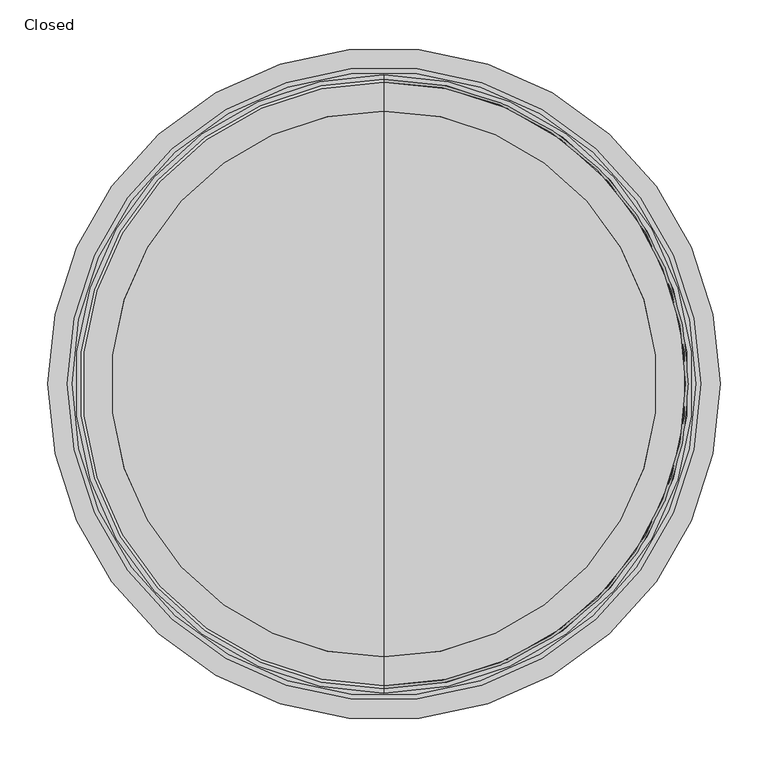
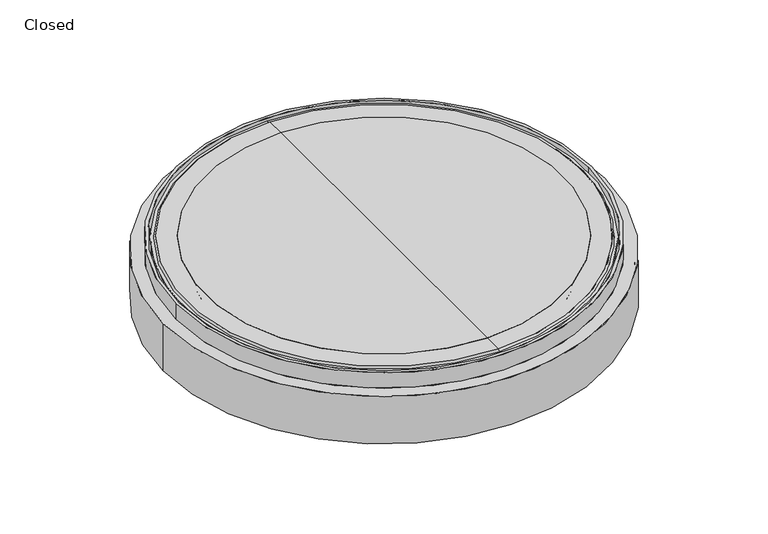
"""IFC4 building model written with IfcOpenShell, lengths in millimetres: proxy geometry, REHAU Chamber Cover : Closed."""

from ifc_helpers import new_model, si_unit, point, frame, origin, origin_with_axes, place, context, project, spatial, polyline, circle_curve, ellipse_curve, trimmed, source, transform, mapped, element, save
from ifc_brep_helpers import plane_surface, cylinder_surface, revolved_surface, advanced_brep


def closed_e65c10ef(model_context):
    return source(origin(), model_context, "Body", "AdvancedBrep", [
        advanced_brep(
        [(0.0, 0.0, 106.0), (0.0, 286.141188, 106.0), (0.0, -286.141188, 106.0), (0.0, -122.6535082, 48.0), (0.0, 122.6535082, 48.0), (0.0, 0.0, 48.0), (0.0, -230.5126615, 55.5422467), (0.0, 230.5126615, 55.5422467), (0.0, -259.2480253, 59.5807387), (0.0, 259.2480253, 59.5807387), (0.0, -275.4856936, 73.2057602), (0.0, 275.4856936, 73.2057602)],
        [
            (0, 1),
            (1, 2, circle_curve(frame((0.0, 0.0, 106.0), z_axis=(0.0, 0.0, 1.0), x_axis=(0.0, 1.0, 0.0)), 286.141188)),
            (2, 0),
            (2, 1, circle_curve(frame((0.0, 0.0, 106.0), z_axis=(0.0, 0.0, 1.0), x_axis=(0.0, 1.0, 0.0)), 286.141188)),
            (3, 4, circle_curve(frame((0.0, 0.0, 48.0), z_axis=(0.0, 0.0, -1.0), x_axis=(0.0, 1.0, 0.0)), 122.6535082)),
            (4, 5),
            (5, 3),
            (4, 3, circle_curve(frame((0.0, 0.0, 48.0), z_axis=(0.0, 0.0, -1.0), x_axis=(0.0, 1.0, 0.0)), 122.6535082)),
            (6, 7, circle_curve(frame((0.0, 0.0, 55.5422467), z_axis=(0.0, 0.0, -1.0), x_axis=(0.0, 1.0, 0.0)), 230.5126615)),
            (7, 4, circle_curve(frame((0.0, 122.6535082, 823.0), z_axis=(-1.0, 0.0, 0.0), x_axis=(0.0, 1.0, 0.0)), 775.0)),
            (3, 6, circle_curve(frame((0.0, -122.6535082, 823.0), z_axis=(-1.0, 0.0, 0.0), x_axis=(0.0, -1.0, 0.0)), 775.0)),
            (7, 6, circle_curve(frame((0.0, 0.0, 55.5422467), z_axis=(0.0, 0.0, -1.0), x_axis=(0.0, 1.0, 0.0)), 230.5126615)),
            (8, 9, circle_curve(frame((0.0, 0.0, 59.5807387), z_axis=(0.0, 0.0, -1.0), x_axis=(0.0, 1.0, 0.0)), 259.2480253)),
            (9, 7),
            (6, 8),
            (9, 8, circle_curve(frame((0.0, 0.0, 59.5807387), z_axis=(0.0, 0.0, -1.0), x_axis=(0.0, 1.0, 0.0)), 259.2480253)),
            (10, 11, circle_curve(frame((0.0, 0.0, 73.2057602), z_axis=(0.0, 0.0, -1.0), x_axis=(0.0, 1.0, 0.0)), 275.4856936)),
            (11, 9, circle_curve(frame((0.0, 256.4645633, 79.3861001), z_axis=(-1.0, 0.0, 0.0), x_axis=(0.0, 1.0, 0.0)), 20.0)),
            (8, 10, circle_curve(frame((0.0, -256.4645633, 79.3861001), z_axis=(-1.0, 0.0, 0.0), x_axis=(0.0, -1.0, 0.0)), 20.0)),
            (11, 10, circle_curve(frame((0.0, 0.0, 73.2057602), z_axis=(0.0, 0.0, -1.0), x_axis=(0.0, 1.0, 0.0)), 275.4856936)),
            (1, 11),
            (10, 2),
        ],
        [
            plane_surface(frame((0.0, 0.0, 106.0), z_axis=(0.0, 0.0, 1.0), x_axis=(0.0, 1.0, 0.0))),
            plane_surface(frame((0.0, 0.0, 48.0), z_axis=(0.0, 0.0, -1.0), x_axis=(0.0, 1.0, 0.0))),
            revolved_surface(trimmed(ellipse_curve(frame((0.0, 122.6535082, 823.0), z_axis=(1.0, 0.0, 0.0), x_axis=(0.0, 1.0, 0.0)), 775.0, 775.0), [point((0.0, 122.6535082, 48.0))], [point((0.0, 230.5126615, 55.5422467))], True, "CARTESIAN"), (0.0, 0.0, 48.0), (0.0, 0.0, 1.0)),
            revolved_surface(polyline([(0.0, 230.5126615, 55.5422467), (0.0, 259.2480253, 59.5807387)]), (0.0, 0.0, 48.0), (0.0, 0.0, 1.0)),
            revolved_surface(trimmed(ellipse_curve(frame((0.0, 256.4645633, 79.3861001), z_axis=(1.0, 0.0, 0.0), x_axis=(0.0, 1.0, 0.0)), 20.0, 20.0), [point((0.0, 259.2480253, 59.5807387))], [point((0.0, 275.4856936, 73.2057602))], True, "CARTESIAN"), (0.0, 0.0, 48.0), (0.0, 0.0, 1.0)),
            revolved_surface(polyline([(0.0, 275.4856936, 73.2057602), (0.0, 286.141188, 106.0)]), (0.0, 0.0, 48.0), (0.0, 0.0, 1.0)),
        ],
        [
            (0, [[1, 2, 3]]),
            (0, [[-3, 4, -1]]),
            (1, [[5, 6, 7]]),
            (1, [[8, -7, -6]]),
            (2, [[9, 10, -5, 11]]),
            (2, [[12, -11, -8, -10]]),
            (3, [[13, 14, -9, 15]]),
            (3, [[16, -15, -12, -14]]),
            (4, [[17, 18, -13, 19]]),
            (4, [[20, -19, -16, -18]]),
            (5, [[-2, 21, -17, 22]]),
            (5, [[-4, -22, -20, -21]]),
        ],
    ),
        advanced_brep(
        [(0.0, -122.6535082, 41.0), (0.0, 122.6535082, 41.0), (0.0, 0.0, 41.0), (0.0, -231.4868732, 48.6103702), (0.0, 231.4868732, 48.6103702), (0.0, -264.4935316, 53.2491536), (0.0, 264.4935316, 53.2491536), (0.0, -288.0381506, 73.0054347), (0.0, 288.0381506, 73.0054347), (0.0, -294.5347787, 93.0), (0.0, 294.5347787, 93.0), (0.0, -311.0347787, 93.0), (0.0, 311.0347787, 93.0), (0.0, -311.0347787, 80.0), (0.0, 311.0347787, 80.0), (0.0, -319.5347787, 80.0), (0.0, 319.5347787, 80.0), (0.0, -319.5347787, 93.0), (0.0, 319.5347787, 93.0), (0.0, -324.0, 97.4652213), (0.0, 324.0, 97.4652213), (0.0, -324.0, 103.0), (0.0, 324.0, 103.0), (0.0, -319.5347787, 103.0), (0.0, 319.5347787, 103.0), (0.0, -316.5347787, 106.0), (0.0, 316.5347787, 106.0), (0.0, -286.141188, 106.0), (0.0, 286.141188, 106.0), (0.0, -275.4856936, 73.2057602), (0.0, 275.4856936, 73.2057602), (0.0, -259.2480253, 59.5807387), (0.0, 259.2480253, 59.5807387), (0.0, -230.5126615, 55.5422467), (0.0, 230.5126615, 55.5422467), (0.0, -122.6535082, 48.0), (0.0, 122.6535082, 48.0), (0.0, 0.0, 48.0)],
        [
            (0, 1, circle_curve(frame((0.0, 0.0, 41.0), z_axis=(0.0, 0.0, -1.0), x_axis=(0.0, 1.0, 0.0)), 122.6535082)),
            (1, 2),
            (2, 0),
            (1, 0, circle_curve(frame((0.0, 0.0, 41.0), z_axis=(0.0, 0.0, -1.0), x_axis=(0.0, 1.0, 0.0)), 122.6535082)),
            (3, 4, circle_curve(frame((0.0, 0.0, 48.6103702), z_axis=(0.0, 0.0, -1.0), x_axis=(0.0, 1.0, 0.0)), 231.4868732)),
            (4, 1, circle_curve(frame((0.0, 122.6535082, 823.0), z_axis=(-1.0, 0.0, 0.0), x_axis=(0.0, 1.0, 0.0)), 782.0)),
            (0, 3, circle_curve(frame((0.0, -122.6535082, 823.0), z_axis=(-1.0, 0.0, 0.0), x_axis=(0.0, -1.0, 0.0)), 782.0)),
            (4, 3, circle_curve(frame((0.0, 0.0, 48.6103702), z_axis=(0.0, 0.0, -1.0), x_axis=(0.0, 1.0, 0.0)), 231.4868732)),
            (5, 6, circle_curve(frame((0.0, 0.0, 53.2491536), z_axis=(0.0, 0.0, -1.0), x_axis=(0.0, 1.0, 0.0)), 264.4935316)),
            (6, 4),
            (3, 5),
            (6, 5, circle_curve(frame((0.0, 0.0, 53.2491536), z_axis=(0.0, 0.0, -1.0), x_axis=(0.0, 1.0, 0.0)), 264.4935316)),
            (7, 8, circle_curve(frame((0.0, 0.0, 73.0054347), z_axis=(0.0, 0.0, -1.0), x_axis=(0.0, 1.0, 0.0)), 288.0381506)),
            (8, 6, circle_curve(frame((0.0, 260.4575116, 81.9669276), z_axis=(-1.0, 0.0, 0.0), x_axis=(0.0, 1.0, 0.0)), 29.0)),
            (5, 7, circle_curve(frame((0.0, -260.4575116, 81.9669276), z_axis=(-1.0, 0.0, 0.0), x_axis=(0.0, -1.0, 0.0)), 29.0)),
            (8, 7, circle_curve(frame((0.0, 0.0, 73.0054347), z_axis=(0.0, 0.0, -1.0), x_axis=(0.0, 1.0, 0.0)), 288.0381506)),
            (9, 10, circle_curve(frame((0.0, 0.0, 93.0), z_axis=(0.0, 0.0, -1.0), x_axis=(0.0, 1.0, 0.0)), 294.5347787)),
            (10, 8),
            (7, 9),
            (10, 9, circle_curve(frame((0.0, 0.0, 93.0), z_axis=(0.0, 0.0, -1.0), x_axis=(0.0, 1.0, 0.0)), 294.5347787)),
            (11, 12, circle_curve(frame((0.0, 0.0, 93.0), z_axis=(0.0, 0.0, -1.0), x_axis=(0.0, 1.0, 0.0)), 311.0347787)),
            (12, 10),
            (9, 11),
            (12, 11, circle_curve(frame((0.0, 0.0, 93.0), z_axis=(0.0, 0.0, -1.0), x_axis=(0.0, 1.0, 0.0)), 311.0347787)),
            (13, 14, circle_curve(frame((0.0, 0.0, 80.0), z_axis=(0.0, 0.0, -1.0), x_axis=(0.0, 1.0, 0.0)), 311.0347787)),
            (14, 12),
            (11, 13),
            (14, 13, circle_curve(frame((0.0, 0.0, 80.0), z_axis=(0.0, 0.0, -1.0), x_axis=(0.0, 1.0, 0.0)), 311.0347787)),
            (15, 16, circle_curve(frame((0.0, 0.0, 80.0), z_axis=(0.0, 0.0, -1.0), x_axis=(0.0, 1.0, 0.0)), 319.5347787)),
            (16, 14),
            (13, 15),
            (16, 15, circle_curve(frame((0.0, 0.0, 80.0), z_axis=(0.0, 0.0, -1.0), x_axis=(0.0, 1.0, 0.0)), 319.5347787)),
            (17, 18, circle_curve(frame((0.0, 0.0, 93.0), z_axis=(0.0, 0.0, -1.0), x_axis=(0.0, 1.0, 0.0)), 319.5347787)),
            (18, 16),
            (15, 17),
            (18, 17, circle_curve(frame((0.0, 0.0, 93.0), z_axis=(0.0, 0.0, -1.0), x_axis=(0.0, 1.0, 0.0)), 319.5347787)),
            (19, 20, circle_curve(frame((0.0, 0.0, 97.4652213), z_axis=(0.0, 0.0, -1.0), x_axis=(0.0, 1.0, 0.0)), 324.0)),
            (20, 18),
            (17, 19),
            (20, 19, circle_curve(frame((0.0, 0.0, 97.4652213), z_axis=(0.0, 0.0, -1.0), x_axis=(0.0, 1.0, 0.0)), 324.0)),
            (21, 22, circle_curve(frame((0.0, 0.0, 103.0), z_axis=(0.0, 0.0, -1.0), x_axis=(0.0, 1.0, 0.0)), 324.0)),
            (22, 20),
            (19, 21),
            (22, 21, circle_curve(frame((0.0, 0.0, 103.0), z_axis=(0.0, 0.0, -1.0), x_axis=(0.0, 1.0, 0.0)), 324.0)),
            (23, 24, circle_curve(frame((0.0, 0.0, 103.0), z_axis=(0.0, 0.0, -1.0), x_axis=(0.0, 1.0, 0.0)), 319.5347787)),
            (24, 22),
            (21, 23),
            (24, 23, circle_curve(frame((0.0, 0.0, 103.0), z_axis=(0.0, 0.0, -1.0), x_axis=(0.0, 1.0, 0.0)), 319.5347787)),
            (25, 26, circle_curve(frame((0.0, 0.0, 106.0), z_axis=(0.0, 0.0, -1.0), x_axis=(0.0, 1.0, 0.0)), 316.5347787)),
            (26, 24),
            (23, 25),
            (26, 25, circle_curve(frame((0.0, 0.0, 106.0), z_axis=(0.0, 0.0, -1.0), x_axis=(0.0, 1.0, 0.0)), 316.5347787)),
            (27, 28, circle_curve(frame((0.0, 0.0, 106.0), z_axis=(0.0, 0.0, -1.0), x_axis=(0.0, 1.0, 0.0)), 286.141188)),
            (28, 26),
            (25, 27),
            (28, 27, circle_curve(frame((0.0, 0.0, 106.0), z_axis=(0.0, 0.0, -1.0), x_axis=(0.0, 1.0, 0.0)), 286.141188)),
            (29, 30, circle_curve(frame((0.0, 0.0, 73.2057602), z_axis=(0.0, 0.0, -1.0), x_axis=(0.0, 1.0, 0.0)), 275.4856936)),
            (30, 28),
            (27, 29),
            (30, 29, circle_curve(frame((0.0, 0.0, 73.2057602), z_axis=(0.0, 0.0, -1.0), x_axis=(0.0, 1.0, 0.0)), 275.4856936)),
            (31, 32, circle_curve(frame((0.0, 0.0, 59.5807387), z_axis=(0.0, 0.0, -1.0), x_axis=(0.0, 1.0, 0.0)), 259.2480253)),
            (32, 30, circle_curve(frame((0.0, 256.4645633, 79.3861001), z_axis=(1.0, 0.0, 0.0), x_axis=(0.0, 1.0, 0.0)), 20.0)),
            (29, 31, circle_curve(frame((0.0, -256.4645633, 79.3861001), z_axis=(1.0, 0.0, 0.0), x_axis=(0.0, -1.0, 0.0)), 20.0)),
            (32, 31, circle_curve(frame((0.0, 0.0, 59.5807387), z_axis=(0.0, 0.0, -1.0), x_axis=(0.0, 1.0, 0.0)), 259.2480253)),
            (33, 34, circle_curve(frame((0.0, 0.0, 55.5422467), z_axis=(0.0, 0.0, -1.0), x_axis=(0.0, 1.0, 0.0)), 230.5126615)),
            (34, 32),
            (31, 33),
            (34, 33, circle_curve(frame((0.0, 0.0, 55.5422467), z_axis=(0.0, 0.0, -1.0), x_axis=(0.0, 1.0, 0.0)), 230.5126615)),
            (35, 36, circle_curve(frame((0.0, 0.0, 48.0), z_axis=(0.0, 0.0, -1.0), x_axis=(0.0, 1.0, 0.0)), 122.6535082)),
            (36, 34, circle_curve(frame((0.0, 122.6535082, 823.0), z_axis=(1.0, 0.0, 0.0), x_axis=(0.0, 1.0, 0.0)), 775.0)),
            (33, 35, circle_curve(frame((0.0, -122.6535082, 823.0), z_axis=(1.0, 0.0, 0.0), x_axis=(0.0, -1.0, 0.0)), 775.0)),
            (36, 35, circle_curve(frame((0.0, 0.0, 48.0), z_axis=(0.0, 0.0, -1.0), x_axis=(0.0, 1.0, 0.0)), 122.6535082)),
            (37, 36),
            (35, 37),
        ],
        [
            plane_surface(frame((0.0, 0.0, 41.0), z_axis=(0.0, 0.0, -1.0), x_axis=(0.0, 1.0, 0.0))),
            revolved_surface(trimmed(ellipse_curve(frame((0.0, 122.6535082, 823.0), z_axis=(1.0, 0.0, 0.0), x_axis=(0.0, 1.0, 0.0)), 782.0, 782.0), [point((0.0, 122.6535082, 41.0))], [point((0.0, 231.4868732, 48.6103702))], True, "CARTESIAN"), (0.0, 0.0, 41.0), (0.0, 0.0, 1.0)),
            revolved_surface(polyline([(0.0, 231.4868732, 48.6103702), (0.0, 264.4935316, 53.2491536)]), (0.0, 0.0, 41.0), (0.0, 0.0, 1.0)),
            revolved_surface(trimmed(ellipse_curve(frame((0.0, 260.4575116, 81.9669276), z_axis=(1.0, 0.0, 0.0), x_axis=(0.0, 1.0, 0.0)), 29.0, 29.0), [point((0.0, 264.4935316, 53.2491536))], [point((0.0, 288.0381506, 73.0054347))], True, "CARTESIAN"), (0.0, 0.0, 41.0), (0.0, 0.0, 1.0)),
            revolved_surface(polyline([(0.0, 288.0381506, 73.0054347), (0.0, 294.5347787, 93.0)]), (0.0, 0.0, 41.0), (0.0, 0.0, 1.0)),
            plane_surface(frame((0.0, 0.0, 93.0), z_axis=(0.0, 0.0, -1.0), x_axis=(0.0, 1.0, 0.0))),
            revolved_surface(polyline([(0.0, 311.0347787, 93.0), (0.0, 311.0347787, 80.0)]), (0.0, 0.0, 41.0), (0.0, 0.0, 1.0)),
            plane_surface(frame((0.0, 0.0, 80.0), z_axis=(0.0, 0.0, -1.0), x_axis=(0.0, 1.0, 0.0))),
            cylinder_surface(frame((0.0, 0.0, 41.0), z_axis=(0.0, 0.0, 1.0), x_axis=(0.0, 1.0, 0.0)), 319.5347787),
            revolved_surface(polyline([(0.0, 319.5347787, 93.0), (0.0, 324.0, 97.4652213)]), (0.0, 0.0, 41.0), (0.0, 0.0, 1.0)),
            cylinder_surface(frame((0.0, 0.0, 41.0), z_axis=(0.0, 0.0, 1.0), x_axis=(0.0, 1.0, 0.0)), 324.0),
            plane_surface(frame((0.0, 0.0, 103.0), z_axis=(0.0, 0.0, 1.0), x_axis=(0.0, 1.0, 0.0))),
            revolved_surface(polyline([(0.0, 319.5347787, 103.0), (0.0, 316.5347787, 106.0)]), (0.0, 0.0, 41.0), (0.0, 0.0, 1.0)),
            plane_surface(frame((0.0, 0.0, 106.0), z_axis=(0.0, 0.0, 1.0), x_axis=(0.0, 1.0, 0.0))),
            revolved_surface(polyline([(0.0, 286.141188, 106.0), (0.0, 275.4856936, 73.2057602)]), (0.0, 0.0, 41.0), (0.0, 0.0, 1.0)),
            revolved_surface(trimmed(ellipse_curve(frame((0.0, 256.4645633, 79.3861001), z_axis=(-1.0, 0.0, 0.0), x_axis=(0.0, 1.0, 0.0)), 20.0, 20.0), [point((0.0, 275.4856936, 73.2057602))], [point((0.0, 259.2480253, 59.5807387))], True, "CARTESIAN"), (0.0, 0.0, 41.0), (0.0, 0.0, 1.0)),
            revolved_surface(polyline([(0.0, 259.2480253, 59.5807387), (0.0, 230.5126615, 55.5422467)]), (0.0, 0.0, 41.0), (0.0, 0.0, 1.0)),
            revolved_surface(trimmed(ellipse_curve(frame((0.0, 122.6535082, 823.0), z_axis=(-1.0, 0.0, 0.0), x_axis=(0.0, 1.0, 0.0)), 775.0, 775.0), [point((0.0, 230.5126615, 55.5422467))], [point((0.0, 122.6535082, 48.0))], True, "CARTESIAN"), (0.0, 0.0, 41.0), (0.0, 0.0, 1.0)),
            plane_surface(frame((0.0, 0.0, 48.0), z_axis=(0.0, 0.0, 1.0), x_axis=(0.0, 1.0, 0.0))),
        ],
        [
            (0, [[1, 2, 3]]),
            (0, [[4, -3, -2]]),
            (1, [[5, 6, -1, 7]]),
            (1, [[8, -7, -4, -6]]),
            (2, [[9, 10, -5, 11]]),
            (2, [[12, -11, -8, -10]]),
            (3, [[13, 14, -9, 15]]),
            (3, [[16, -15, -12, -14]]),
            (4, [[17, 18, -13, 19]]),
            (4, [[20, -19, -16, -18]]),
            (5, [[21, 22, -17, 23]]),
            (5, [[24, -23, -20, -22]]),
            (6, [[25, 26, -21, 27]]),
            (6, [[28, -27, -24, -26]]),
            (7, [[29, 30, -25, 31]]),
            (7, [[32, -31, -28, -30]]),
            (8, [[33, 34, -29, 35]]),
            (8, [[36, -35, -32, -34]]),
            (9, [[37, 38, -33, 39]]),
            (9, [[40, -39, -36, -38]]),
            (10, [[41, 42, -37, 43]]),
            (10, [[44, -43, -40, -42]]),
            (11, [[45, 46, -41, 47]]),
            (11, [[48, -47, -44, -46]]),
            (12, [[49, 50, -45, 51]]),
            (12, [[52, -51, -48, -50]]),
            (13, [[53, 54, -49, 55]]),
            (13, [[56, -55, -52, -54]]),
            (14, [[57, 58, -53, 59]]),
            (14, [[60, -59, -56, -58]]),
            (15, [[61, 62, -57, 63]]),
            (15, [[64, -63, -60, -62]]),
            (16, [[65, 66, -61, 67]]),
            (16, [[68, -67, -64, -66]]),
            (17, [[69, 70, -65, 71]]),
            (17, [[72, -71, -68, -70]]),
            (18, [[73, -69, 74]]),
            (18, [[-74, -72, -73]]),
        ],
    ),
        advanced_brep(
        [(327.0, 0.0, 80.0), (-327.0, 0.0, 80.0), (-327.0, 0.0, 106.0), (327.0, 0.0, 106.0), (304.0, 0.0, 56.0), (-304.0, 0.0, 56.0), (-304.0, 0.0, 80.0), (304.0, 0.0, 80.0), (309.0, 0.0, 70.0), (-309.0, 0.0, 70.0), (-309.0, 0.0, 56.0), (309.0, 0.0, 56.0), (347.5, 0.0, 0.0), (-347.5, 0.0, 0.0), (-347.5, 0.0, 70.0), (347.5, 0.0, 70.0), (352.5, 0.0, 80.0), (-352.5, 0.0, 80.0), (-352.5, 0.0, 0.0), (352.5, 0.0, 0.0), (332.0, 0.0, 106.0), (-332.0, 0.0, 106.0), (-332.0, 0.0, 80.0), (332.0, 0.0, 80.0)],
        [
            (0, 1, circle_curve(frame((0.0, 0.0, 80.0), z_axis=(0.0, 0.0, -1.0), x_axis=(-1.0, 0.0, 0.0)), 327.0)),
            (1, 2),
            (2, 3, circle_curve(frame((0.0, 0.0, 106.0), z_axis=(0.0, 0.0, 1.0), x_axis=(-1.0, 0.0, 0.0)), 327.0)),
            (3, 0),
            (4, 5, circle_curve(frame((0.0, 0.0, 56.0), z_axis=(0.0, 0.0, -1.0), x_axis=(-1.0, 0.0, 0.0)), 304.0)),
            (5, 6),
            (6, 7, circle_curve(frame((0.0, 0.0, 80.0), z_axis=(0.0, 0.0, 1.0), x_axis=(-1.0, 0.0, 0.0)), 304.0)),
            (7, 4),
            (8, 9, circle_curve(frame((0.0, 0.0, 70.0), z_axis=(0.0, 0.0, -1.0), x_axis=(-1.0, 0.0, 0.0)), 309.0)),
            (9, 10),
            (10, 11, circle_curve(frame((0.0, 0.0, 56.0), z_axis=(0.0, 0.0, 1.0), x_axis=(-1.0, 0.0, 0.0)), 309.0)),
            (11, 8),
            (12, 13, circle_curve(frame((0.0, 0.0, 0.0), z_axis=(0.0, 0.0, -1.0), x_axis=(-1.0, 0.0, 0.0)), 347.5)),
            (13, 14),
            (14, 15, circle_curve(frame((0.0, 0.0, 70.0), z_axis=(0.0, 0.0, 1.0), x_axis=(-1.0, 0.0, 0.0)), 347.5)),
            (15, 12),
            (16, 17, circle_curve(frame((0.0, 0.0, 80.0), z_axis=(0.0, 0.0, -1.0), x_axis=(-1.0, 0.0, 0.0)), 352.5)),
            (17, 18),
            (18, 19, circle_curve(frame((0.0, 0.0, 0.0), z_axis=(0.0, 0.0, 1.0), x_axis=(-1.0, 0.0, 0.0)), 352.5)),
            (19, 16),
            (20, 21, circle_curve(frame((0.0, 0.0, 106.0), z_axis=(0.0, 0.0, -1.0), x_axis=(-1.0, 0.0, 0.0)), 332.0)),
            (21, 22),
            (22, 23, circle_curve(frame((0.0, 0.0, 80.0), z_axis=(0.0, 0.0, 1.0), x_axis=(-1.0, 0.0, 0.0)), 332.0)),
            (23, 20),
            (1, 0, circle_curve(frame((0.0, 0.0, 80.0), z_axis=(0.0, 0.0, -1.0), x_axis=(1.0, 0.0, 0.0)), 327.0)),
            (3, 2, circle_curve(frame((0.0, 0.0, 106.0), z_axis=(0.0, 0.0, 1.0), x_axis=(1.0, 0.0, 0.0)), 327.0)),
            (6, 7, circle_curve(frame((0.0, 0.0, 80.0), z_axis=(0.0, 0.0, -1.0), x_axis=(1.0, 0.0, 0.0)), 304.0)),
            (5, 4, circle_curve(frame((0.0, 0.0, 56.0), z_axis=(0.0, 0.0, -1.0), x_axis=(1.0, 0.0, 0.0)), 304.0)),
            (10, 11, circle_curve(frame((0.0, 0.0, 56.0), z_axis=(0.0, 0.0, -1.0), x_axis=(1.0, 0.0, 0.0)), 309.0)),
            (9, 8, circle_curve(frame((0.0, 0.0, 70.0), z_axis=(0.0, 0.0, -1.0), x_axis=(1.0, 0.0, 0.0)), 309.0)),
            (14, 15, circle_curve(frame((0.0, 0.0, 70.0), z_axis=(0.0, 0.0, -1.0), x_axis=(1.0, 0.0, 0.0)), 347.5)),
            (13, 12, circle_curve(frame((0.0, 0.0, 0.0), z_axis=(0.0, 0.0, -1.0), x_axis=(1.0, 0.0, 0.0)), 347.5)),
            (18, 19, circle_curve(frame((0.0, 0.0, 0.0), z_axis=(0.0, 0.0, -1.0), x_axis=(1.0, 0.0, 0.0)), 352.5)),
            (17, 16, circle_curve(frame((0.0, 0.0, 80.0), z_axis=(0.0, 0.0, -1.0), x_axis=(1.0, 0.0, 0.0)), 352.5)),
            (22, 23, circle_curve(frame((0.0, 0.0, 80.0), z_axis=(0.0, 0.0, -1.0), x_axis=(1.0, 0.0, 0.0)), 332.0)),
            (21, 20, circle_curve(frame((0.0, 0.0, 106.0), z_axis=(0.0, 0.0, -1.0), x_axis=(1.0, 0.0, 0.0)), 332.0)),
        ],
        [
            revolved_surface(polyline([(-327.0, 0.0, 106.0), (-327.0, 0.0, 80.0)]), (0.0, 0.0, 0.0), (0.0, 0.0, 1.0)),
            revolved_surface(polyline([(-304.0, 0.0, 80.0), (-304.0, 0.0, 56.0)]), (0.0, 0.0, 0.0), (0.0, 0.0, 1.0)),
            cylinder_surface(frame((0.0, 0.0, 0.0), z_axis=(0.0, 0.0, 1.0), x_axis=(-1.0, 0.0, 0.0)), 309.0),
            revolved_surface(polyline([(-347.5, 0.0, 70.0), (-347.5, 0.0, 0.0)]), (0.0, 0.0, 0.0), (0.0, 0.0, 1.0)),
            cylinder_surface(frame((0.0, 0.0, 0.0), z_axis=(0.0, 0.0, 1.0), x_axis=(-1.0, 0.0, 0.0)), 352.5),
            cylinder_surface(frame((0.0, 0.0, 0.0), z_axis=(0.0, 0.0, 1.0), x_axis=(-1.0, 0.0, 0.0)), 332.0),
            revolved_surface(polyline([(327.0, 0.0, 106.0), (327.0, 0.0, 80.0)]), (0.0, 0.0, 0.0), (0.0, 0.0, 1.0)),
            plane_surface(frame((0.0, 0.0, 80.0), z_axis=(0.0, 0.0, 1.0), x_axis=(1.0, 0.0, 0.0))),
            revolved_surface(polyline([(304.0, 0.0, 80.0), (304.0, 0.0, 56.0)]), (0.0, 0.0, 0.0), (0.0, 0.0, 1.0)),
            plane_surface(frame((0.0, 0.0, 56.0), z_axis=(0.0, 0.0, -1.0), x_axis=(1.0, 0.0, 0.0))),
            cylinder_surface(origin_with_axes(), 309.0),
            plane_surface(frame((0.0, 0.0, 70.0), z_axis=(0.0, 0.0, -1.0), x_axis=(1.0, 0.0, 0.0))),
            revolved_surface(polyline([(347.5, 0.0, 70.0), (347.5, 0.0, 0.0)]), (0.0, 0.0, 0.0), (0.0, 0.0, 1.0)),
            plane_surface(frame((0.0, 0.0, 0.0), z_axis=(0.0, 0.0, -1.0), x_axis=(1.0, 0.0, 0.0))),
            cylinder_surface(origin_with_axes(), 352.5),
            cylinder_surface(origin_with_axes(), 332.0),
            plane_surface(frame((0.0, 0.0, 106.0), z_axis=(0.0, 0.0, 1.0), x_axis=(1.0, 0.0, 0.0))),
        ],
        [
            (0, [[1, 2, 3, 4]]),
            (1, [[5, 6, 7, 8]]),
            (2, [[9, 10, 11, 12]]),
            (3, [[13, 14, 15, 16]]),
            (4, [[17, 18, 19, 20]]),
            (5, [[21, 22, 23, 24]]),
            (6, [[25, -4, 26, -2]]),
            (7, [[-25, -1], [27, -7]]),
            (8, [[28, -8, -27, -6]]),
            (9, [[29, -11], [-28, -5]]),
            (10, [[30, -12, -29, -10]]),
            (11, [[31, -15], [-30, -9]]),
            (12, [[32, -16, -31, -14]]),
            (13, [[33, -19], [-32, -13]]),
            (14, [[34, -20, -33, -18]]),
            (7, [[-34, -17], [35, -23]]),
            (15, [[36, -24, -35, -22]]),
            (16, [[-36, -21], [-26, -3]]),
        ],
    ),
    ])


if __name__ == "__main__":
    model = new_model("IFC4")
    model_context = context("Model", 3, world=origin())
    ifc_project = project(units=[si_unit("LENGTHUNIT", "METRE", prefix="MILLI")], contexts=[model_context])
    site = spatial("IfcSite", under=ifc_project)
    building = spatial("IfcBuilding", under=site)
    placement = place(None, origin())
    closed_shape = closed_e65c10ef(model_context)
    element("IfcBuildingElementProxy", 1, Name="REHAU Chamber Cover : Closed", ObjectType="REHAU Chamber Cover : Closed", at=placement, inside=building, context=model_context, shape_type="MappedRepresentation", body=[
        mapped(closed_shape, transform((0.0, 0.0, 0.0), x_axis=(1.0, 0.0, 0.0), y_axis=(0.0, 1.0, 0.0), z_axis=(0.0, 0.0, 1.0))),
    ])
    save(model, "model.ifc")
